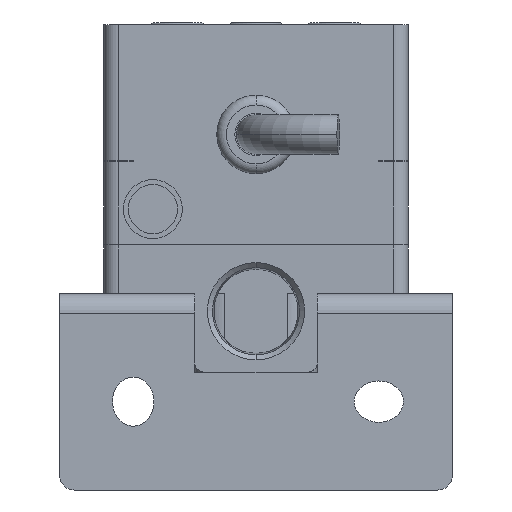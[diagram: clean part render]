
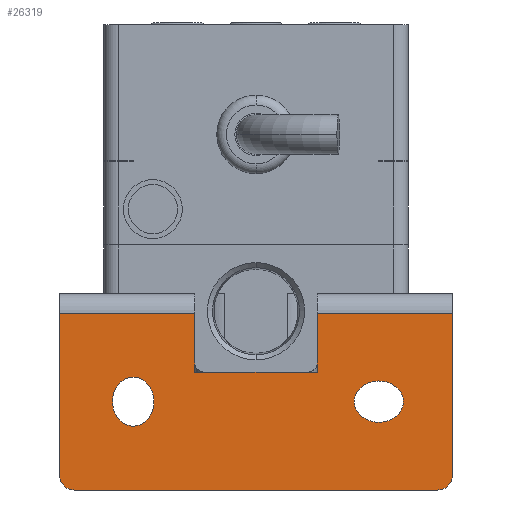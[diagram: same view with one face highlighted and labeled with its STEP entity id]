
A CAD part, front view. The second image highlights one B-rep face of the part: STEP entity #26319.
In plain terms, the highlighted planar face has unit normal (0, -1, 0).
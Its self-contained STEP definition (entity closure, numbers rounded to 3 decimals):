
#3114=DIRECTION('',(0.,0.,1.));
#3115=VECTOR('',#3114,16.5);
#3116=CARTESIAN_POINT('',(-20.,-14.5,-32.));
#3117=LINE('',#3116,#3115);
#3130=DIRECTION('',(1.,0.,0.));
#3131=VECTOR('',#3130,13.75);
#3132=CARTESIAN_POINT('',(-20.,-14.5,-15.5));
#3133=LINE('',#3132,#3131);
#3134=DIRECTION('',(0.,0.,-1.));
#3135=VECTOR('',#3134,6.);
#3136=CARTESIAN_POINT('',(-6.25,-14.5,-15.5));
#3137=LINE('',#3136,#3135);
#3138=DIRECTION('',(-1.,0.,0.));
#3139=VECTOR('',#3138,12.5);
#3140=CARTESIAN_POINT('',(6.25,-14.5,-21.5));
#3141=LINE('',#3140,#3139);
#3142=DIRECTION('',(0.,0.,-1.));
#3143=VECTOR('',#3142,6.);
#3144=CARTESIAN_POINT('',(6.25,-14.5,-15.5));
#3145=LINE('',#3144,#3143);
#3146=DIRECTION('',(1.,0.,0.));
#3147=VECTOR('',#3146,13.75);
#3148=CARTESIAN_POINT('',(6.25,-14.5,-15.5));
#3149=LINE('',#3148,#3147);
#3150=CARTESIAN_POINT('',(18.5,-14.5,-32.));
#3151=DIRECTION('',(0.,-1.,0.));
#3152=DIRECTION('',(0.,0.,-1.));
#3153=AXIS2_PLACEMENT_3D('',#3150,#3151,#3152);
#3155=DIRECTION('',(-1.,0.,0.));
#3156=VECTOR('',#3155,37.);
#3157=CARTESIAN_POINT('',(18.5,-14.5,-33.5));
#3158=LINE('',#3157,#3156);
#3159=CARTESIAN_POINT('',(-18.5,-14.5,-32.));
#3160=DIRECTION('',(0.,-1.,0.));
#3161=DIRECTION('',(-1.,0.,0.));
#3162=AXIS2_PLACEMENT_3D('',#3159,#3160,#3161);
#3164=CARTESIAN_POINT('',(10.,-14.5,-24.5));
#3165=CARTESIAN_POINT('',(10.,-14.5,-24.253));
#3166=CARTESIAN_POINT('',(10.081,-14.5,-23.852));
#3167=CARTESIAN_POINT('',(10.392,-14.5,-23.344));
#3168=CARTESIAN_POINT('',(10.719,-14.5,-23.004));
#3169=CARTESIAN_POINT('',(11.124,-14.5,-22.729));
#3170=CARTESIAN_POINT('',(11.577,-14.5,-22.533));
#3171=CARTESIAN_POINT('',(11.968,-14.5,-22.441));
#3172=CARTESIAN_POINT('',(12.277,-14.5,-22.405));
#3173=CARTESIAN_POINT('',(12.5,-14.5,-22.397));
#3174=CARTESIAN_POINT('',(12.723,-14.5,-22.405));
#3175=CARTESIAN_POINT('',(13.032,-14.5,-22.441));
#3176=CARTESIAN_POINT('',(13.423,-14.5,-22.533));
#3177=CARTESIAN_POINT('',(13.876,-14.5,-22.729));
#3178=CARTESIAN_POINT('',(14.281,-14.5,-23.004));
#3179=CARTESIAN_POINT('',(14.608,-14.5,-23.344));
#3180=CARTESIAN_POINT('',(14.919,-14.5,-23.852));
#3181=CARTESIAN_POINT('',(15.,-14.5,-24.253));
#3182=CARTESIAN_POINT('',(15.,-14.5,-24.5));
#3184=CARTESIAN_POINT('',(15.,-14.5,-24.5));
#3185=CARTESIAN_POINT('',(15.,-14.5,-24.747));
#3186=CARTESIAN_POINT('',(14.919,-14.5,-25.148));
#3187=CARTESIAN_POINT('',(14.608,-14.5,-25.656));
#3188=CARTESIAN_POINT('',(14.281,-14.5,-25.996));
#3189=CARTESIAN_POINT('',(13.876,-14.5,-26.271));
#3190=CARTESIAN_POINT('',(13.423,-14.5,-26.467));
#3191=CARTESIAN_POINT('',(13.032,-14.5,-26.559));
#3192=CARTESIAN_POINT('',(12.723,-14.5,-26.595));
#3193=CARTESIAN_POINT('',(12.5,-14.5,-26.603));
#3194=CARTESIAN_POINT('',(12.277,-14.5,-26.595));
#3195=CARTESIAN_POINT('',(11.968,-14.5,-26.559));
#3196=CARTESIAN_POINT('',(11.577,-14.5,-26.467));
#3197=CARTESIAN_POINT('',(11.124,-14.5,-26.271));
#3198=CARTESIAN_POINT('',(10.719,-14.5,-25.996));
#3199=CARTESIAN_POINT('',(10.392,-14.5,-25.656));
#3200=CARTESIAN_POINT('',(10.081,-14.5,-25.148));
#3201=CARTESIAN_POINT('',(10.,-14.5,-24.747));
#3202=CARTESIAN_POINT('',(10.,-14.5,-24.5));
#3204=CARTESIAN_POINT('',(-14.6,-14.5,-24.5));
#3205=CARTESIAN_POINT('',(-14.6,-14.5,-24.205));
#3206=CARTESIAN_POINT('',(-14.532,-14.5,-23.728));
#3207=CARTESIAN_POINT('',(-14.271,-14.5,-23.124));
#3208=CARTESIAN_POINT('',(-13.996,-14.5,-22.719));
#3209=CARTESIAN_POINT('',(-13.656,-14.5,-22.392));
#3210=CARTESIAN_POINT('',(-13.275,-14.5,-22.159));
#3211=CARTESIAN_POINT('',(-12.947,-14.5,-22.048));
#3212=CARTESIAN_POINT('',(-12.688,-14.5,-22.007));
#3213=CARTESIAN_POINT('',(-12.5,-14.5,-21.997));
#3214=CARTESIAN_POINT('',(-12.312,-14.5,-22.007));
#3215=CARTESIAN_POINT('',(-12.053,-14.5,-22.048));
#3216=CARTESIAN_POINT('',(-11.725,-14.5,-22.159));
#3217=CARTESIAN_POINT('',(-11.344,-14.5,-22.392));
#3218=CARTESIAN_POINT('',(-11.004,-14.5,-22.719));
#3219=CARTESIAN_POINT('',(-10.729,-14.5,-23.124));
#3220=CARTESIAN_POINT('',(-10.468,-14.5,-23.728));
#3221=CARTESIAN_POINT('',(-10.4,-14.5,-24.205));
#3222=CARTESIAN_POINT('',(-10.4,-14.5,-24.5));
#3224=CARTESIAN_POINT('',(-10.4,-14.5,-24.5));
#3225=CARTESIAN_POINT('',(-10.4,-14.5,-24.795));
#3226=CARTESIAN_POINT('',(-10.468,-14.5,-25.272));
#3227=CARTESIAN_POINT('',(-10.729,-14.5,-25.876));
#3228=CARTESIAN_POINT('',(-11.004,-14.5,-26.281));
#3229=CARTESIAN_POINT('',(-11.344,-14.5,-26.608));
#3230=CARTESIAN_POINT('',(-11.725,-14.5,-26.841));
#3231=CARTESIAN_POINT('',(-12.053,-14.5,-26.952));
#3232=CARTESIAN_POINT('',(-12.312,-14.5,-26.993));
#3233=CARTESIAN_POINT('',(-12.5,-14.5,-27.003));
#3234=CARTESIAN_POINT('',(-12.688,-14.5,-26.993));
#3235=CARTESIAN_POINT('',(-12.947,-14.5,-26.952));
#3236=CARTESIAN_POINT('',(-13.275,-14.5,-26.841));
#3237=CARTESIAN_POINT('',(-13.656,-14.5,-26.608));
#3238=CARTESIAN_POINT('',(-13.996,-14.5,-26.281));
#3239=CARTESIAN_POINT('',(-14.271,-14.5,-25.876));
#3240=CARTESIAN_POINT('',(-14.532,-14.5,-25.272));
#3241=CARTESIAN_POINT('',(-14.6,-14.5,-24.795));
#3242=CARTESIAN_POINT('',(-14.6,-14.5,-24.5));
#3260=DIRECTION('',(0.,0.,1.));
#3261=VECTOR('',#3260,16.5);
#3262=CARTESIAN_POINT('',(20.,-14.5,-32.));
#3263=LINE('',#3262,#3261);
#21775=CARTESIAN_POINT('',(6.25,-14.5,-21.5));
#21776=CARTESIAN_POINT('',(-6.25,-14.5,-21.5));
#21777=VERTEX_POINT('',#21775);
#21778=VERTEX_POINT('',#21776);
#21801=CARTESIAN_POINT('',(-20.,-14.5,-32.));
#21802=CARTESIAN_POINT('',(-18.5,-14.5,-33.5));
#21803=VERTEX_POINT('',#21801);
#21804=VERTEX_POINT('',#21802);
#21813=CARTESIAN_POINT('',(18.5,-14.5,-33.5));
#21814=VERTEX_POINT('',#21813);
#21815=CARTESIAN_POINT('',(20.,-14.5,-32.));
#21816=VERTEX_POINT('',#21815);
#21831=VERTEX_POINT('',#3164);
#21832=VERTEX_POINT('',#3182);
#21833=VERTEX_POINT('',#3204);
#21834=VERTEX_POINT('',#3222);
#21836=CARTESIAN_POINT('',(-6.25,-14.5,-15.5));
#21838=VERTEX_POINT('',#21836);
#21839=CARTESIAN_POINT('',(-20.,-14.5,-15.5));
#21840=VERTEX_POINT('',#21839);
#21844=CARTESIAN_POINT('',(20.,-14.5,-15.5));
#21846=VERTEX_POINT('',#21844);
#21847=CARTESIAN_POINT('',(6.25,-14.5,-15.5));
#21848=VERTEX_POINT('',#21847);
#26284=CARTESIAN_POINT('',(20.,-14.5,-33.5));
#26285=DIRECTION('',(0.,-1.,0.));
#26286=DIRECTION('',(0.,0.,1.));
#26287=AXIS2_PLACEMENT_3D('',#26284,#26285,#26286);
#26288=PLANE('',#26287);
#26289=ORIENTED_EDGE('',*,*,#26277,.T.);
#26290=ORIENTED_EDGE('',*,*,#26166,.T.);
#26292=ORIENTED_EDGE('',*,*,#26291,.F.);
#26293=ORIENTED_EDGE('',*,*,#25940,.F.);
#26295=ORIENTED_EDGE('',*,*,#26294,.T.);
#26297=ORIENTED_EDGE('',*,*,#26296,.F.);
#26299=ORIENTED_EDGE('',*,*,#26298,.F.);
#26301=ORIENTED_EDGE('',*,*,#26300,.T.);
#26303=ORIENTED_EDGE('',*,*,#26302,.F.);
#26304=ORIENTED_EDGE('',*,*,#26238,.T.);
#26305=EDGE_LOOP('',(#26289,#26290,#26292,#26293,#26295,#26297,#26299,#26301,
#26303,#26304));
#26306=FACE_OUTER_BOUND('',#26305,.F.);
#26308=ORIENTED_EDGE('',*,*,#26307,.F.);
#26310=ORIENTED_EDGE('',*,*,#26309,.F.);
#26311=EDGE_LOOP('',(#26308,#26310));
#26312=FACE_BOUND('',#26311,.F.);
#26314=ORIENTED_EDGE('',*,*,#26313,.F.);
#26316=ORIENTED_EDGE('',*,*,#26315,.F.);
#26317=EDGE_LOOP('',(#26314,#26316));
#26318=FACE_BOUND('',#26317,.F.);
#26319=ADVANCED_FACE('',(#26306,#26312,#26318),#26288,.T.);
#3154=CIRCLE('',#3153,1.5);
#3163=CIRCLE('',#3162,1.5);
#3183=B_SPLINE_CURVE_WITH_KNOTS('',3,(#3164,#3165,#3166,#3167,#3168,#3169,#3170,
#3171,#3172,#3173,#3174,#3175,#3176,#3177,#3178,#3179,#3180,#3181,#3182),
.UNSPECIFIED.,.F.,.F.,(4,1,1,1,1,1,1,1,1,1,1,1,1,1,1,1,4),(0.,0.125,
0.188,0.25,0.313,0.375,0.438,0.469,0.5,0.531,0.563,
0.625,0.688,0.75,0.813,0.875,1.),.UNSPECIFIED.);
#3203=B_SPLINE_CURVE_WITH_KNOTS('',3,(#3184,#3185,#3186,#3187,#3188,#3189,#3190,
#3191,#3192,#3193,#3194,#3195,#3196,#3197,#3198,#3199,#3200,#3201,#3202),
.UNSPECIFIED.,.F.,.F.,(4,1,1,1,1,1,1,1,1,1,1,1,1,1,1,1,4),(0.,0.125,
0.188,0.25,0.313,0.375,0.438,0.469,0.5,0.531,0.563,
0.625,0.688,0.75,0.813,0.875,1.),.UNSPECIFIED.);
#3223=B_SPLINE_CURVE_WITH_KNOTS('',3,(#3204,#3205,#3206,#3207,#3208,#3209,#3210,
#3211,#3212,#3213,#3214,#3215,#3216,#3217,#3218,#3219,#3220,#3221,#3222),
.UNSPECIFIED.,.F.,.F.,(4,1,1,1,1,1,1,1,1,1,1,1,1,1,1,1,4),(0.,0.125,
0.188,0.25,0.313,0.375,0.438,0.469,0.5,0.531,0.563,
0.625,0.688,0.75,0.813,0.875,1.),.UNSPECIFIED.);
#3243=B_SPLINE_CURVE_WITH_KNOTS('',3,(#3224,#3225,#3226,#3227,#3228,#3229,#3230,
#3231,#3232,#3233,#3234,#3235,#3236,#3237,#3238,#3239,#3240,#3241,#3242),
.UNSPECIFIED.,.F.,.F.,(4,1,1,1,1,1,1,1,1,1,1,1,1,1,1,1,4),(0.,0.125,
0.188,0.25,0.313,0.375,0.438,0.469,0.5,0.531,0.563,
0.625,0.688,0.75,0.813,0.875,1.),.UNSPECIFIED.);
#25940=EDGE_CURVE('',#21848,#21777,#3145,.T.);
#26166=EDGE_CURVE('',#21838,#21778,#3137,.T.);
#26238=EDGE_CURVE('',#21803,#21840,#3117,.T.);
#26277=EDGE_CURVE('',#21840,#21838,#3133,.T.);
#26291=EDGE_CURVE('',#21777,#21778,#3141,.T.);
#26294=EDGE_CURVE('',#21848,#21846,#3149,.T.);
#26296=EDGE_CURVE('',#21816,#21846,#3263,.T.);
#26298=EDGE_CURVE('',#21814,#21816,#3154,.T.);
#26300=EDGE_CURVE('',#21814,#21804,#3158,.T.);
#26302=EDGE_CURVE('',#21803,#21804,#3163,.T.);
#26307=EDGE_CURVE('',#21831,#21832,#3183,.T.);
#26309=EDGE_CURVE('',#21832,#21831,#3203,.T.);
#26313=EDGE_CURVE('',#21833,#21834,#3223,.T.);
#26315=EDGE_CURVE('',#21834,#21833,#3243,.T.);
